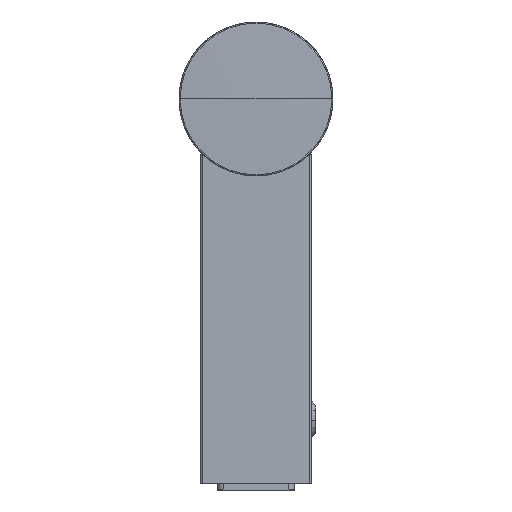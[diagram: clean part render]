
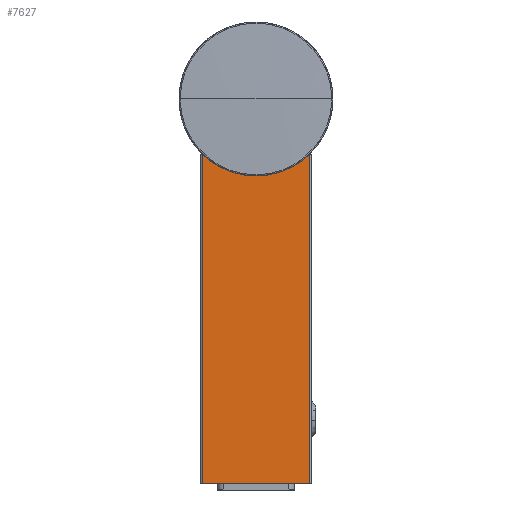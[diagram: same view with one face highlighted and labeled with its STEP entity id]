
A CAD part, left-side view. The second image highlights one B-rep face of the part: STEP entity #7627.
In plain terms, the highlighted planar face has unit normal (-1, 0, 0).
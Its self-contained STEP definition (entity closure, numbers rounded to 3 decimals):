
#25 = VERTEX_POINT ( 'NONE', #6425 ) ;
#398 = CARTESIAN_POINT ( 'NONE',  ( -155.854, 21.433, -23.217 ) ) ;
#805 = DIRECTION ( 'NONE',  ( 0., 0., 1. ) ) ;
#935 = CARTESIAN_POINT ( 'NONE',  ( -155.854, 21.433, -23.217 ) ) ;
#1000 = VERTEX_POINT ( 'NONE', #7436 ) ;
#1141 = CARTESIAN_POINT ( 'NONE',  ( -155.854, -2.714, -23.217 ) ) ;
#1284 = DIRECTION ( 'NONE',  ( 0., -1., 0. ) ) ;
#1287 = EDGE_CURVE ( 'NONE', #1000, #8931, #5671, .T. ) ;
#1494 = VERTEX_POINT ( 'NONE', #398 ) ;
#1627 = DIRECTION ( 'NONE',  ( 0., -1., 0. ) ) ;
#1716 = AXIS2_PLACEMENT_3D ( 'NONE', #2654, #3235, #8979 ) ;
#2182 = ORIENTED_EDGE ( 'NONE', *, *, #4707, .T. ) ;
#2185 = VECTOR ( 'NONE', #1284, 1000. ) ;
#2304 = DIRECTION ( 'NONE',  ( 1., 0., 0. ) ) ;
#2633 = VERTEX_POINT ( 'NONE', #7001 ) ;
#2654 = CARTESIAN_POINT ( 'NONE',  ( -155.854, 30.133, -14.217 ) ) ;
#3065 = EDGE_CURVE ( 'NONE', #25, #1494, #5087, .T. ) ;
#3235 = DIRECTION ( 'NONE',  ( 1., 0., 0. ) ) ;
#3282 = DIRECTION ( 'NONE',  ( 0., 0., -1. ) ) ;
#3460 = DIRECTION ( 'NONE',  ( 0., 0., -1. ) ) ;
#3556 = AXIS2_PLACEMENT_3D ( 'NONE', #8671, #2304, #8008 ) ;
#3569 = LINE ( 'NONE', #7217, #7109 ) ;
#3576 = CARTESIAN_POINT ( 'NONE',  ( -155.854, 38.833, -76.717 ) ) ;
#3802 = CARTESIAN_POINT ( 'NONE',  ( -155.854, 21.433, -76.717 ) ) ;
#4337 = FACE_OUTER_BOUND ( 'NONE', #8166, .T. ) ;
#4480 = ORIENTED_EDGE ( 'NONE', *, *, #7785, .F. ) ;
#4627 = DIRECTION ( 'NONE',  ( 0., -1., 0. ) ) ;
#4707 = EDGE_CURVE ( 'NONE', #8083, #1494, #7060, .T. ) ;
#4762 = VECTOR ( 'NONE', #4627, 1000. ) ;
#4829 = EDGE_CURVE ( 'NONE', #25, #6153, #8085, .T. ) ;
#5087 = LINE ( 'NONE', #1141, #4762 ) ;
#5241 = ORIENTED_EDGE ( 'NONE', *, *, #4829, .T. ) ;
#5291 = CIRCLE ( 'NONE', #8092, 12.5 ) ;
#5431 = LINE ( 'NONE', #9185, #2185 ) ;
#5671 = LINE ( 'NONE', #7670, #8916 ) ;
#6153 = VERTEX_POINT ( 'NONE', #7765 ) ;
#6425 = CARTESIAN_POINT ( 'NONE',  ( -155.854, 21.458, -23.217 ) ) ;
#6568 = PLANE ( 'NONE',  #3556 ) ;
#6776 = CARTESIAN_POINT ( 'NONE',  ( -155.854, 30.133, -14.217 ) ) ;
#7001 = CARTESIAN_POINT ( 'NONE',  ( -155.854, 38.808, -23.217 ) ) ;
#7060 = LINE ( 'NONE', #935, #8312 ) ;
#7109 = VECTOR ( 'NONE', #1627, 1000. ) ;
#7217 = CARTESIAN_POINT ( 'NONE',  ( -155.854, -2.714, -76.717 ) ) ;
#7295 = ORIENTED_EDGE ( 'NONE', *, *, #7633, .T. ) ;
#7436 = CARTESIAN_POINT ( 'NONE',  ( -155.854, 38.833, -23.217 ) ) ;
#7627 = ADVANCED_FACE ( 'NONE', ( #4337 ), #6568, .F. ) ;
#7633 = EDGE_CURVE ( 'NONE', #8931, #8083, #3569, .T. ) ;
#7670 = CARTESIAN_POINT ( 'NONE',  ( -155.854, 38.833, -76.717 ) ) ;
#7689 = ORIENTED_EDGE ( 'NONE', *, *, #8755, .T. ) ;
#7765 = CARTESIAN_POINT ( 'NONE',  ( -155.854, 30.133, -26.717 ) ) ;
#7785 = EDGE_CURVE ( 'NONE', #1000, #2633, #5431, .T. ) ;
#8008 = DIRECTION ( 'NONE',  ( 0., 1., 0. ) ) ;
#8083 = VERTEX_POINT ( 'NONE', #3802 ) ;
#8085 = CIRCLE ( 'NONE', #1716, 12.5 ) ;
#8092 = AXIS2_PLACEMENT_3D ( 'NONE', #6776, #8943, #3282 ) ;
#8166 = EDGE_LOOP ( 'NONE', ( #8620, #5241, #7689, #4480, #8322, #7295, #2182 ) ) ;
#8312 = VECTOR ( 'NONE', #805, 1000. ) ;
#8322 = ORIENTED_EDGE ( 'NONE', *, *, #1287, .T. ) ;
#8620 = ORIENTED_EDGE ( 'NONE', *, *, #3065, .F. ) ;
#8671 = CARTESIAN_POINT ( 'NONE',  ( -155.854, -2.714, -23.217 ) ) ;
#8755 = EDGE_CURVE ( 'NONE', #6153, #2633, #5291, .T. ) ;
#8916 = VECTOR ( 'NONE', #3460, 1000. ) ;
#8931 = VERTEX_POINT ( 'NONE', #3576 ) ;
#8943 = DIRECTION ( 'NONE',  ( 1., 0., 0. ) ) ;
#8979 = DIRECTION ( 'NONE',  ( 0., 0., -1. ) ) ;
#9185 = CARTESIAN_POINT ( 'NONE',  ( -155.854, -2.714, -23.217 ) ) ;
